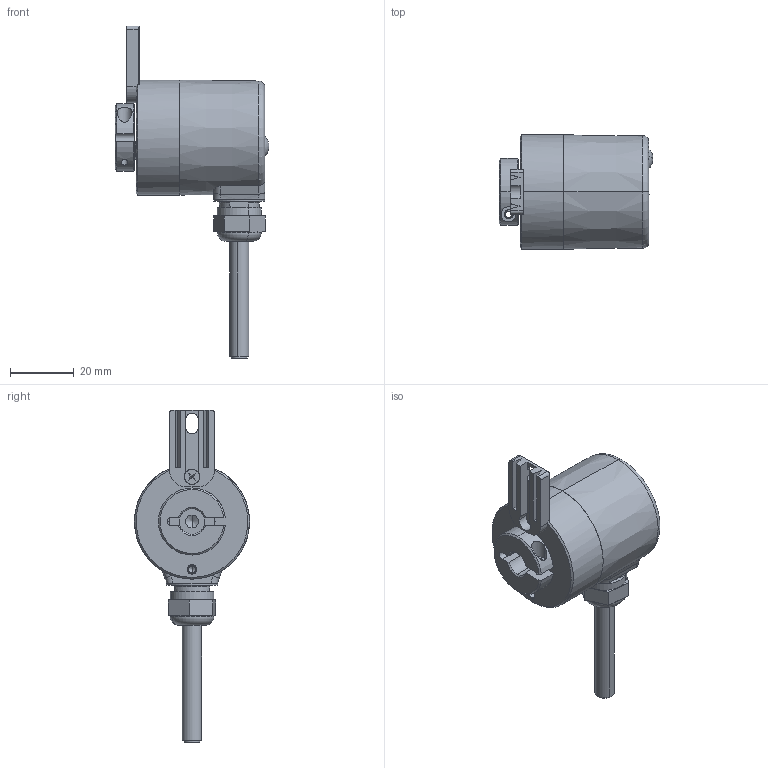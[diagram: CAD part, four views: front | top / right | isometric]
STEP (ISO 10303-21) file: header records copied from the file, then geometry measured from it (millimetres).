
FILE_DESCRIPTION (( 'STEP AP214' ), '1' );
FILE_NAME ('3671.24X2.XXXX.STEP', '2008-09-12T06:17:40', ( 'admin' ), ( 'Fritz Kübler GmbH' ), 'SwSTEP 2.0', 'SolidWorks 2008', '' );
FILE_SCHEMA (( 'AUTOMOTIVE_DESIGN' ));
Length unit declared in the file: millimetre
Products named in the file (1): 3671.24X2.XXXX
Bounding box: 48.19 x 36 x 103.9 mm (x, y, z)
Volume: 24749.8 mm3; surface area: 23353.1 mm2
Topology: 10 solids, 10 shells, 529 faces, 1224 edges, 746 vertices
Faces by surface type: cylinder 185, plane 147, cone 121, torus 63, bspline 7, sphere 6
Entity records: 21604 total; most frequent: CARTESIAN_POINT 3465, DIRECTION 2761, ORIENTED_EDGE 2408, EDGE_CURVE 1204, AXIS2_PLACEMENT_3D 1143, VERTEX_POINT 746, CIRCLE 620, EDGE_LOOP 598
